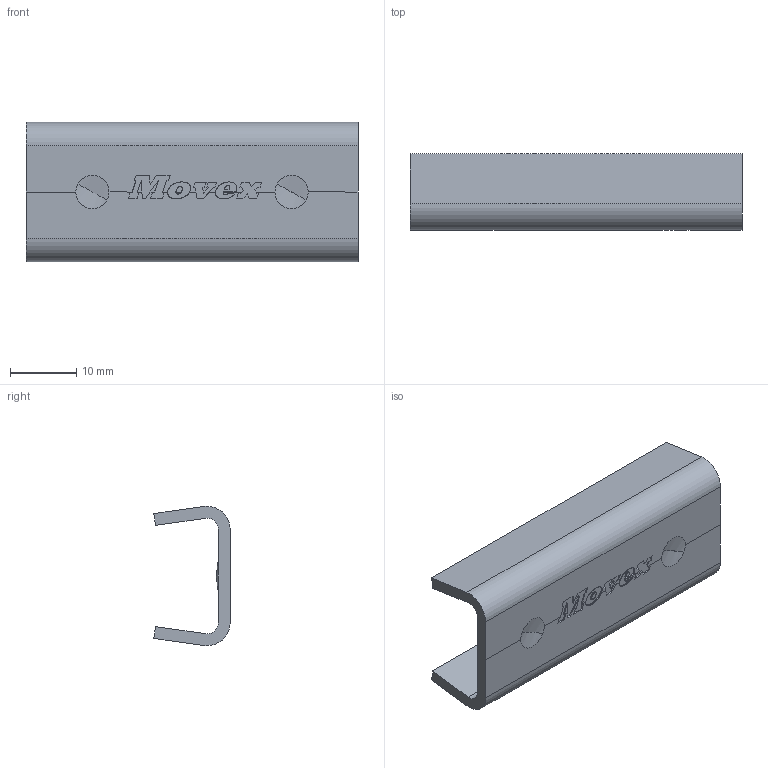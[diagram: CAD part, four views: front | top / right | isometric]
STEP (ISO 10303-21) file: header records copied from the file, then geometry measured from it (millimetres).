
FILE_DESCRIPTION(('CATIA V5 STEP Exchange'),'2;1');
FILE_NAME('\\server01\tecnico\CODICI MOVEX\3D per clienti\Tom\16-11-2012\P39001_01.stp','2012-11-16T13:51:44+00:00',('none'),('none'),'CATIA Version 5 Release 21 SP 1 (IN-10)','CATIA V5 STEP AP203','none');
FILE_SCHEMA(('CONFIG_CONTROL_DESIGN'));
Length unit declared in the file: millimetre
Products named in the file (1): Part1
Bounding box: 50 x 11.5 x 21 mm (x, y, z)
Volume: 3406.4 mm3; surface area: 4142.5 mm2
Topology: 1 solids, 1 shells, 465 faces, 1395 edges, 926 vertices
Faces by surface type: plane 453, sphere 8, cylinder 4
Entity records: 15160 total; most frequent: ORIENTED_EDGE 2774, CARTESIAN_POINT 2744, DIRECTION 2247, EDGE_CURVE 1387, VECTOR 1355, LINE 1355, VERTEX_POINT 926, EDGE_LOOP 467
